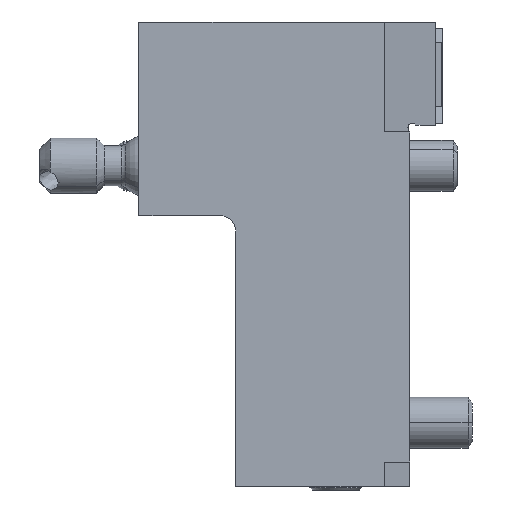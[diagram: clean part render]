
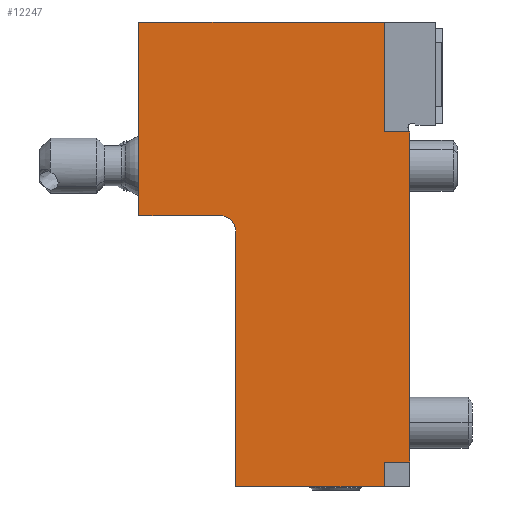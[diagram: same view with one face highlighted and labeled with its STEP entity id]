
A CAD part, left-side view. The second image highlights one B-rep face of the part: STEP entity #12247.
In plain terms, the highlighted planar face has unit normal (-1, 0, 0).
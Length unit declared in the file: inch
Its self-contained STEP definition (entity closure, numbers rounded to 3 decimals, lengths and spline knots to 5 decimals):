
#53 = CARTESIAN_POINT ( 'NONE',  ( -1.77165, -0.75, 0. ) ) ;
#146 = CARTESIAN_POINT ( 'NONE',  ( -1.77165, -0.55, 2.75 ) ) ;
#157 = EDGE_CURVE ( 'NONE', #5415, #1496, #7634, .T. ) ;
#779 = CARTESIAN_POINT ( 'NONE',  ( -1.77165, 0.6, 1.98 ) ) ;
#885 = EDGE_CURVE ( 'NONE', #7377, #6175, #12174, .T. ) ;
#1241 = ORIENTED_EDGE ( 'NONE', *, *, #13846, .T. ) ;
#1443 = ORIENTED_EDGE ( 'NONE', *, *, #11666, .F. ) ;
#1496 = VERTEX_POINT ( 'NONE', #12364 ) ;
#1571 = VECTOR ( 'NONE', #12848, 39.37008 ) ;
#1920 = ORIENTED_EDGE ( 'NONE', *, *, #15466, .T. ) ;
#2117 = VECTOR ( 'NONE', #19983, 39.37008 ) ;
#3288 = CARTESIAN_POINT ( 'NONE',  ( -1.77165, -0.55, 0.19 ) ) ;
#3322 = VECTOR ( 'NONE', #12642, 39.37008 ) ;
#3473 = CARTESIAN_POINT ( 'NONE',  ( -1.77165, -0.95, 3.6 ) ) ;
#3718 = ORIENTED_EDGE ( 'NONE', *, *, #12128, .T. ) ;
#3890 = DIRECTION ( 'NONE',  ( 1., 0., 0. ) ) ;
#3963 = CARTESIAN_POINT ( 'NONE',  ( -1.77165, -0.73681, 2.77474 ) ) ;
#4052 = LINE ( 'NONE', #10383, #6619 ) ;
#4376 = CIRCLE ( 'NONE', #18268, 0.12 ) ;
#4718 = LINE ( 'NONE', #53, #11207 ) ;
#5415 = VERTEX_POINT ( 'NONE', #18104 ) ;
#5536 = VERTEX_POINT ( 'NONE', #7307 ) ;
#5629 = ORIENTED_EDGE ( 'NONE', *, *, #11102, .T. ) ;
#5631 = CARTESIAN_POINT ( 'NONE',  ( -1.77165, 1.35, 3.6 ) ) ;
#5655 = CARTESIAN_POINT ( 'NONE',  ( -1.77165, -0.95, 0. ) ) ;
#5832 = CARTESIAN_POINT ( 'NONE',  ( -1.77165, -0.74581, 2.75 ) ) ;
#5957 = VECTOR ( 'NONE', #8580, 39.37008 ) ;
#6175 = VERTEX_POINT ( 'NONE', #18341 ) ;
#6307 = ORIENTED_EDGE ( 'NONE', *, *, #18890, .F. ) ;
#6463 = VERTEX_POINT ( 'NONE', #5832 ) ;
#6546 = DIRECTION ( 'NONE',  ( 0., 1., 0. ) ) ;
#6619 = VECTOR ( 'NONE', #16701, 39.37008 ) ;
#6958 = CARTESIAN_POINT ( 'NONE',  ( -1.77165, -0.55, 0.19 ) ) ;
#7307 = CARTESIAN_POINT ( 'NONE',  ( -1.77165, 0.72, 2.1 ) ) ;
#7377 = VERTEX_POINT ( 'NONE', #15235 ) ;
#7634 = LINE ( 'NONE', #5655, #2117 ) ;
#8094 = LINE ( 'NONE', #8195, #5957 ) ;
#8195 = CARTESIAN_POINT ( 'NONE',  ( -1.77165, -0.55, 2.75 ) ) ;
#8458 = CARTESIAN_POINT ( 'NONE',  ( -1.77165, 0.72, 1.98 ) ) ;
#8580 = DIRECTION ( 'NONE',  ( 0., 0., 1. ) ) ;
#8787 = CARTESIAN_POINT ( 'NONE',  ( -1.77165, -0.95, 2.75 ) ) ;
#9225 = VERTEX_POINT ( 'NONE', #11629 ) ;
#9615 = LINE ( 'NONE', #3288, #3322 ) ;
#9721 = VERTEX_POINT ( 'NONE', #17256 ) ;
#9726 = FACE_OUTER_BOUND ( 'NONE', #16568, .T. ) ;
#9900 = VERTEX_POINT ( 'NONE', #146 ) ;
#10221 = DIRECTION ( 'NONE',  ( 0., -1., 0. ) ) ;
#10246 = ORIENTED_EDGE ( 'NONE', *, *, #20099, .T. ) ;
#10383 = CARTESIAN_POINT ( 'NONE',  ( -1.77165, -0.95, 2.1 ) ) ;
#11067 = VECTOR ( 'NONE', #18477, 39.37008 ) ;
#11102 = EDGE_CURVE ( 'NONE', #6175, #14591, #4718, .T. ) ;
#11207 = VECTOR ( 'NONE', #18735, 39.37008 ) ;
#11392 = EDGE_CURVE ( 'NONE', #9721, #18457, #13543, .T. ) ;
#11629 = CARTESIAN_POINT ( 'NONE',  ( -1.77165, -0.55, 3.6 ) ) ;
#11666 = EDGE_CURVE ( 'NONE', #6463, #14591, #14953, .T. ) ;
#12011 = ORIENTED_EDGE ( 'NONE', *, *, #18714, .T. ) ;
#12089 = DIRECTION ( 'NONE',  ( 0., 0., -1. ) ) ;
#12128 = EDGE_CURVE ( 'NONE', #15895, #1496, #15630, .T. ) ;
#12174 = LINE ( 'NONE', #6958, #11067 ) ;
#12224 = DIRECTION ( 'NONE',  ( 0., 1., 0. ) ) ;
#12247 = ADVANCED_FACE ( 'NONE', ( #9726 ), #13370, .T. ) ;
#12364 = CARTESIAN_POINT ( 'NONE',  ( -1.77165, 0.6, 0. ) ) ;
#12642 = DIRECTION ( 'NONE',  ( 0., 0., -1. ) ) ;
#12848 = DIRECTION ( 'NONE',  ( 0., 0., -1. ) ) ;
#13231 = VECTOR ( 'NONE', #12089, 39.37008 ) ;
#13370 = PLANE ( 'NONE',  #17455 ) ;
#13433 = CARTESIAN_POINT ( 'NONE',  ( -1.77165, -0.75, 2.7385 ) ) ;
#13543 = LINE ( 'NONE', #5631, #13231 ) ;
#13576 = LINE ( 'NONE', #8787, #19443 ) ;
#13846 = EDGE_CURVE ( 'NONE', #5536, #15895, #4376, .T. ) ;
#14591 = VERTEX_POINT ( 'NONE', #13433 ) ;
#14770 = LINE ( 'NONE', #3473, #16239 ) ;
#14815 = CARTESIAN_POINT ( 'NONE',  ( -1.77165, 1.35, 2.1 ) ) ;
#14953 = LINE ( 'NONE', #3963, #19177 ) ;
#15235 = CARTESIAN_POINT ( 'NONE',  ( -1.77165, -0.55, 0.19 ) ) ;
#15236 = ORIENTED_EDGE ( 'NONE', *, *, #885, .T. ) ;
#15466 = EDGE_CURVE ( 'NONE', #6463, #9900, #13576, .T. ) ;
#15630 = LINE ( 'NONE', #18866, #1571 ) ;
#15818 = ORIENTED_EDGE ( 'NONE', *, *, #11392, .T. ) ;
#15895 = VERTEX_POINT ( 'NONE', #779 ) ;
#16037 = CARTESIAN_POINT ( 'NONE',  ( -1.77165, -0.95, 3.6 ) ) ;
#16132 = DIRECTION ( 'NONE',  ( -1., 0., 0. ) ) ;
#16239 = VECTOR ( 'NONE', #6546, 39.37008 ) ;
#16568 = EDGE_LOOP ( 'NONE', ( #10246, #1241, #3718, #17304, #6307, #15236, #5629, #1443, #1920, #12011, #19459, #15818 ) ) ;
#16701 = DIRECTION ( 'NONE',  ( 0., -1., 0. ) ) ;
#17256 = CARTESIAN_POINT ( 'NONE',  ( -1.77165, 1.35, 3.6 ) ) ;
#17304 = ORIENTED_EDGE ( 'NONE', *, *, #157, .F. ) ;
#17319 = EDGE_CURVE ( 'NONE', #9225, #9721, #14770, .T. ) ;
#17455 = AXIS2_PLACEMENT_3D ( 'NONE', #16037, #16132, #18004 ) ;
#18004 = DIRECTION ( 'NONE',  ( 0., -1., 0. ) ) ;
#18104 = CARTESIAN_POINT ( 'NONE',  ( -1.77165, -0.55, 0. ) ) ;
#18268 = AXIS2_PLACEMENT_3D ( 'NONE', #8458, #3890, #10221 ) ;
#18341 = CARTESIAN_POINT ( 'NONE',  ( -1.77165, -0.75, 0.19 ) ) ;
#18370 = DIRECTION ( 'NONE',  ( 0., -0.342, -0.94 ) ) ;
#18457 = VERTEX_POINT ( 'NONE', #14815 ) ;
#18477 = DIRECTION ( 'NONE',  ( 0., -1., 0. ) ) ;
#18714 = EDGE_CURVE ( 'NONE', #9900, #9225, #8094, .T. ) ;
#18735 = DIRECTION ( 'NONE',  ( 0., 0., 1. ) ) ;
#18866 = CARTESIAN_POINT ( 'NONE',  ( -1.77165, 0.6, 5.72181 ) ) ;
#18890 = EDGE_CURVE ( 'NONE', #7377, #5415, #9615, .T. ) ;
#19177 = VECTOR ( 'NONE', #18370, 39.37008 ) ;
#19443 = VECTOR ( 'NONE', #12224, 39.37008 ) ;
#19459 = ORIENTED_EDGE ( 'NONE', *, *, #17319, .T. ) ;
#19983 = DIRECTION ( 'NONE',  ( 0., 1., 0. ) ) ;
#20099 = EDGE_CURVE ( 'NONE', #18457, #5536, #4052, .T. ) ;
